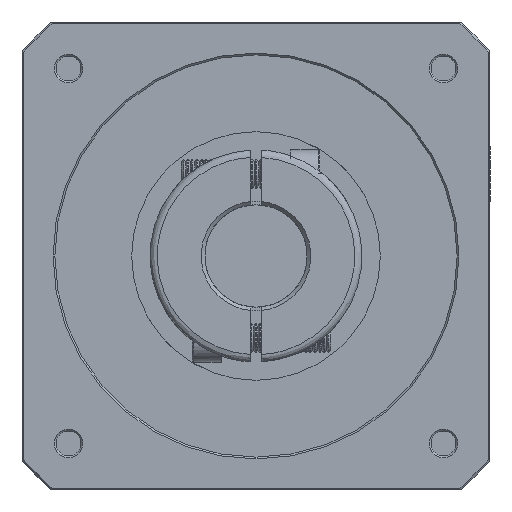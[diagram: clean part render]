
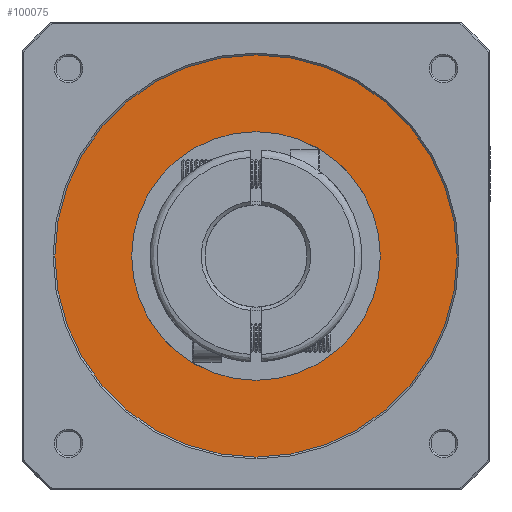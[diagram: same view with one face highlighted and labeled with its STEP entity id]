
A CAD part, front view. The second image highlights one B-rep face of the part: STEP entity #100075.
In plain terms, the highlighted planar face has unit normal (0, 1, 0).
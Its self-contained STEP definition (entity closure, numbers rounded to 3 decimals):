
#1229 = ORIENTED_EDGE ( 'NONE', *, *, #97464, .T. ) ;
#1843 = AXIS2_PLACEMENT_3D ( 'NONE', #15784, #70267, #23641 ) ;
#2617 = DIRECTION ( 'NONE',  ( 0., 0., -1. ) ) ;
#5139 = EDGE_LOOP ( 'NONE', ( #99680, #98890 ) ) ;
#5401 = ORIENTED_EDGE ( 'NONE', *, *, #98681, .T. ) ;
#9107 = CARTESIAN_POINT ( 'NONE',  ( 0., -178.111, -34. ) ) ;
#9370 = EDGE_CURVE ( 'NONE', #90245, #90289, #37465, .T. ) ;
#15784 = CARTESIAN_POINT ( 'NONE',  ( 0., -178.111, 0. ) ) ;
#19769 = AXIS2_PLACEMENT_3D ( 'NONE', #83165, #36509, #90928 ) ;
#20394 = CARTESIAN_POINT ( 'NONE',  ( 0., -178.111, 55. ) ) ;
#22374 = EDGE_LOOP ( 'NONE', ( #1229, #5401 ) ) ;
#22468 = DIRECTION ( 'NONE',  ( 0., 1., 0. ) ) ;
#23641 = DIRECTION ( 'NONE',  ( 0., 0., 1. ) ) ;
#26725 = FACE_BOUND ( 'NONE', #5139, .T. ) ;
#27487 = CARTESIAN_POINT ( 'NONE',  ( -55.66, -178.111, -55.66 ) ) ;
#35278 = DIRECTION ( 'NONE',  ( 1., 0., 0. ) ) ;
#36509 = DIRECTION ( 'NONE',  ( 0., -1., 0. ) ) ;
#37465 = CIRCLE ( 'NONE', #1843, 34. ) ;
#37970 = VERTEX_POINT ( 'NONE', #98309 ) ;
#40689 = VERTEX_POINT ( 'NONE', #20394 ) ;
#42997 = CIRCLE ( 'NONE', #65080, 55. ) ;
#47736 = CIRCLE ( 'NONE', #50154, 55. ) ;
#49396 = DIRECTION ( 'NONE',  ( 0., 1., 0. ) ) ;
#50154 = AXIS2_PLACEMENT_3D ( 'NONE', #95946, #49396, #2617 ) ;
#52034 = CARTESIAN_POINT ( 'NONE',  ( 0., -178.111, 34. ) ) ;
#56497 = EDGE_CURVE ( 'NONE', #90289, #90245, #78164, .T. ) ;
#65080 = AXIS2_PLACEMENT_3D ( 'NONE', #69093, #22468, #76925 ) ;
#69093 = CARTESIAN_POINT ( 'NONE',  ( 0., -178.111, 0. ) ) ;
#70267 = DIRECTION ( 'NONE',  ( 0., -1., 0. ) ) ;
#76925 = DIRECTION ( 'NONE',  ( 0., 0., -1. ) ) ;
#76992 = AXIS2_PLACEMENT_3D ( 'NONE', #27487, #81961, #35278 ) ;
#78164 = CIRCLE ( 'NONE', #19769, 34. ) ;
#81961 = DIRECTION ( 'NONE',  ( 0., -1., 0. ) ) ;
#83165 = CARTESIAN_POINT ( 'NONE',  ( 0., -178.111, 0. ) ) ;
#86397 = FACE_OUTER_BOUND ( 'NONE', #22374, .T. ) ;
#89383 = PLANE ( 'NONE',  #76992 ) ;
#90245 = VERTEX_POINT ( 'NONE', #9107 ) ;
#90289 = VERTEX_POINT ( 'NONE', #52034 ) ;
#90928 = DIRECTION ( 'NONE',  ( 0., 0., 1. ) ) ;
#95946 = CARTESIAN_POINT ( 'NONE',  ( 0., -178.111, 0. ) ) ;
#97464 = EDGE_CURVE ( 'NONE', #37970, #40689, #42997, .T. ) ;
#98309 = CARTESIAN_POINT ( 'NONE',  ( 0., -178.111, -55. ) ) ;
#98681 = EDGE_CURVE ( 'NONE', #40689, #37970, #47736, .T. ) ;
#98890 = ORIENTED_EDGE ( 'NONE', *, *, #9370, .T. ) ;
#99680 = ORIENTED_EDGE ( 'NONE', *, *, #56497, .T. ) ;
#100075 = ADVANCED_FACE ( 'NONE', ( #26725, #86397 ), #89383, .F. ) ;
